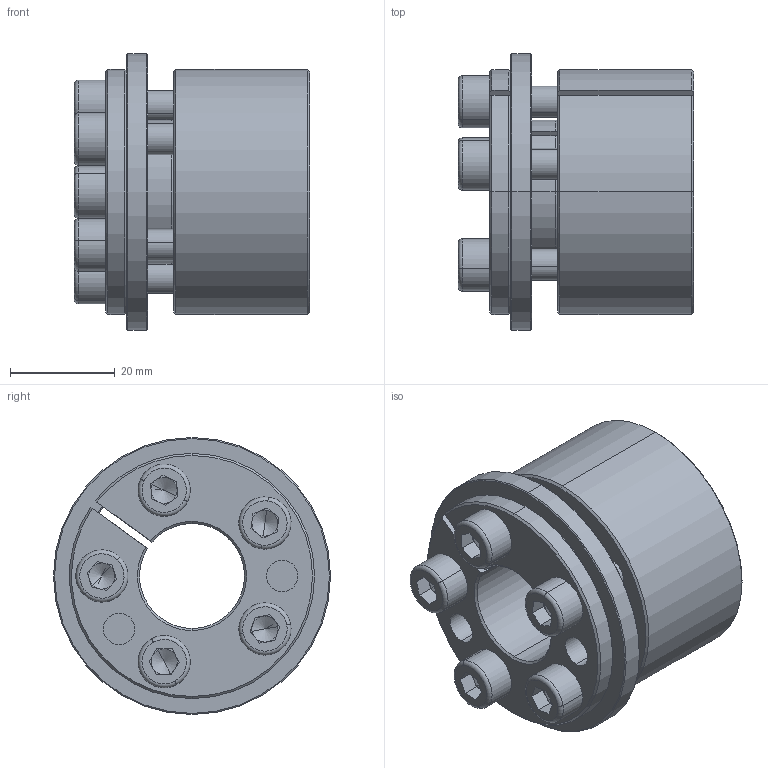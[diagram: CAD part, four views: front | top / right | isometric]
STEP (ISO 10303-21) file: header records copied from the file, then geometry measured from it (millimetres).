
FILE_DESCRIPTION (( 'STEP AP214' ), '1' );
FILE_NAME ('H5×°ÅäÌå20-47.STEP', '2022-07-26T01:52:52', ( '' ), ( '' ), 'SwSTEP 2.0', 'SolidWorks 2022', '' );
FILE_SCHEMA (( 'AUTOMOTIVE_DESIGN' ));
Length unit declared in the file: millimetre
Products named in the file (1): H5蚾饜极20-47
Bounding box: 45 x 53 x 53 mm (x, y, z)
Volume: 50013 mm3; surface area: 20389 mm2
Topology: 1 solids, 1 shells, 222 faces, 543 edges, 333 vertices
Faces by surface type: plane 85, cone 64, cylinder 63, torus 10
Entity records: 6566 total; most frequent: DIRECTION 1210, CARTESIAN_POINT 1161, ORIENTED_EDGE 1066, EDGE_CURVE 533, AXIS2_PLACEMENT_3D 478, VERTEX_POINT 333, EDGE_LOOP 258, CIRCLE 255
